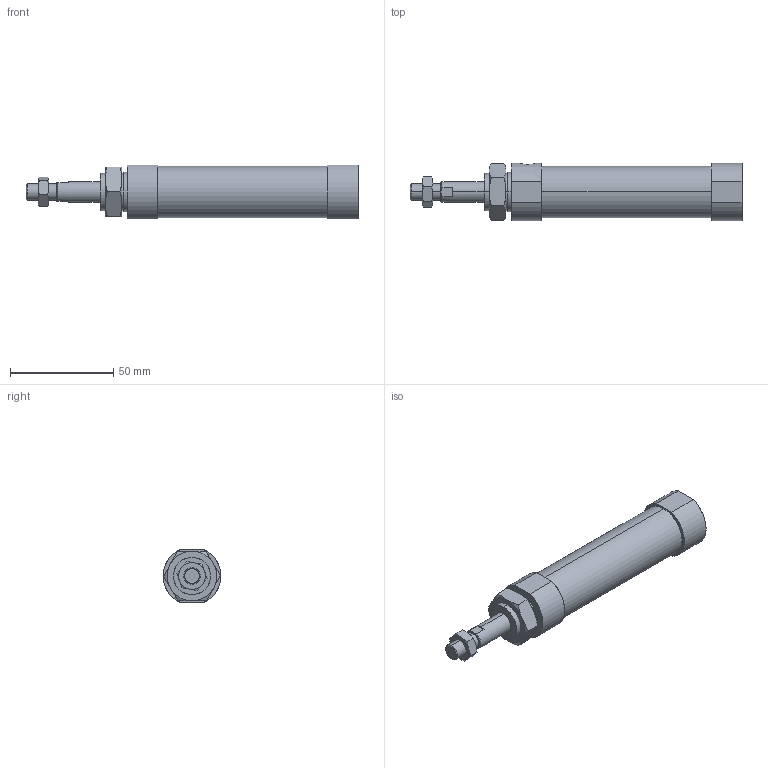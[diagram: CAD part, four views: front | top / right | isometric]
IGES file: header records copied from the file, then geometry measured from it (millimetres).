
Start section: SolidWorks IGES file using analytic representation for surfaces
Global section: file name: C:\Users\Toshiba\Desktop\JGND0-20-15-N.IGS; native system: SolidWorks 2014; preprocessor: SolidWorks 2014; author: Toshiba; date: 160804.100252; units: millimetre
Bounding box: 161 x 28 x 26 mm (x, y, z)
Surface area: 14757.6 mm2 (no closed solid volume)
Topology: 0 solids, 0 shells, 81 faces, 1362 edges, 1362 vertices
Faces by surface type: bspline 57, revolution 24
